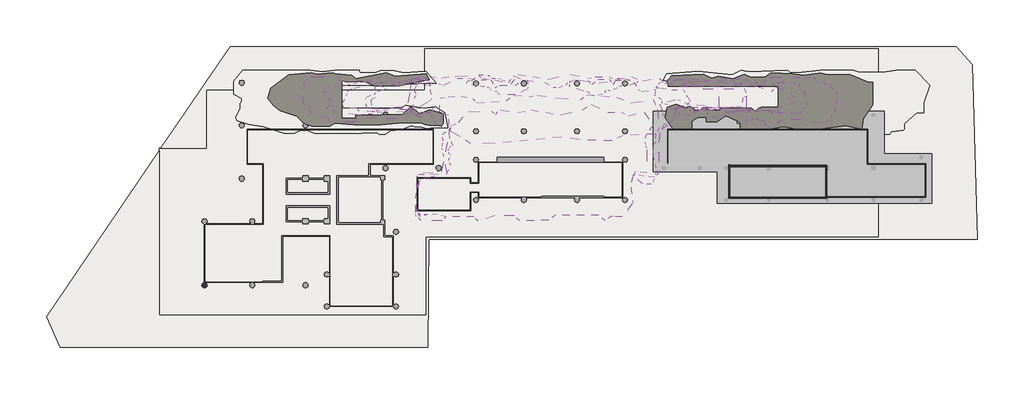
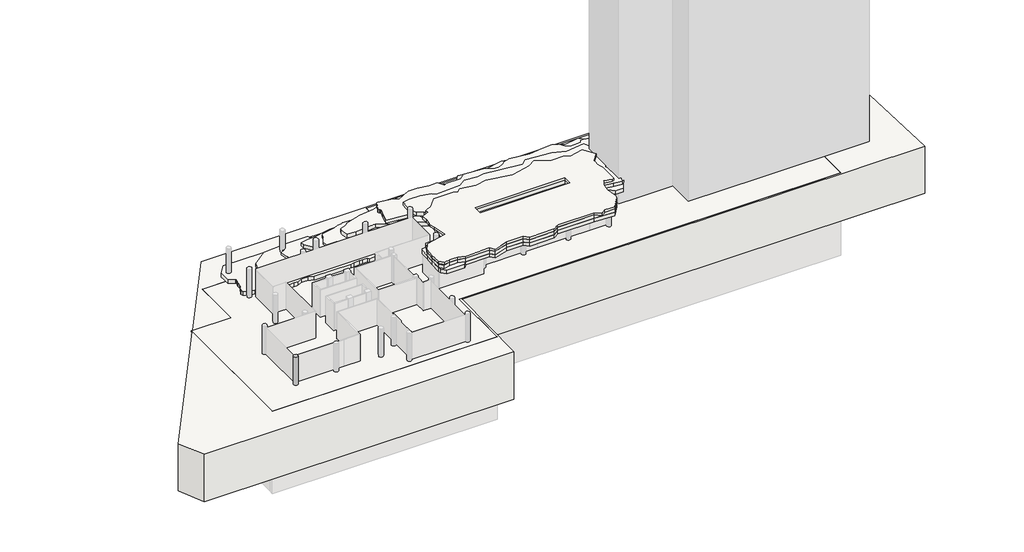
# One storey, part 2 of 3: 18 slabs, 13 walls, 1 column.
"""IFC4 building model written with IfcOpenShell, lengths in millimetres."""

from ifc_helpers import new_model, si_unit, point, frame, frame_2d, origin, origin_with_axes, place, context, project, spatial, polyline, circle_curve, trimmed, segment, composite_curve, outline, extrude, faceted_brep, element, save

model = new_model("IFC4")

# Units and contexts
model_context = context("Model", 3, world=origin())
ifc_project = project(units=[si_unit("LENGTHUNIT", "METRE", prefix="MILLI")], contexts=[model_context])

# Site, building, storey
site = spatial("IfcSite", under=ifc_project)
building = spatial("IfcBuilding", under=site)
storey = spatial("IfcBuildingStorey", under=building, Name="TW-L 01", Elevation=-3.14e-05)

# Column
placement = place(None, origin())
element("IfcColumn", 1, ObjectType="AJN-ARC-POTEAU CIRCULAIRE : ø90", at=placement, inside=storey, context=model_context, shape_type="SweptSolid", body=[
    extrude(outline(composite_curve([segment(trimmed(circle_curve(frame_2d((24400.0, 10500.0)), 450.0), [point((23950.0, 10500.0))], [point((24850.0, 10500.0))], False, "CARTESIAN"), True, "CONTINUOUS"), segment(trimmed(circle_curve(frame_2d((24400.0, 10500.0)), 450.0), [point((24850.0, 10500.0))], [point((23950.0, 10500.0))], False, "CARTESIAN"), True, "CONTINUOUS")], self_intersect=False)), frame((0.0, 0.0, -3.14e-05), z_axis=(0.0, 0.0, 1.0), x_axis=(1.0, 0.0, 0.0)), (0.0, 0.0, 1.0), 6000.0),
])

# Slabs
element("IfcSlab", 2, ObjectType="AJN-ARC-GROUND", at=placement, inside=storey, context=model_context, shape_type="SweptSolid", body=[
    extrude(outline(polyline([(-2288.897594, 5130.2877107), (16800.0, 33217.8905238), (16800.0, 5400.0), (61900.0, 5400.0), (61900.0, 18550.0), (138400.0, 18550.0), (138400.0, 50500.0), (61600.0, 50500.0), (61600.0, 43500.0), (24700.0, 43500.0), (24700.0, 33600.0), (17059.6892554, 33600.0), (28769.0749317, 50829.3120878), (151540.8062246, 50789.8483362), (154195.3580014, 47789.7295076), (155085.7762083, 18251.9851247), (62332.9956853, 18251.9851247), (62124.7981364, 0.0), (0.0, 0.0), (-2288.897594, 5130.2877107)])), frame((0.0, 0.0, -10000.0000314), z_axis=(0.0, 0.0, 1.0), x_axis=(1.0, 0.0, 0.0)), (0.0, 0.0, 1.0), 10000.0),
])
element("IfcSlab", 3, ObjectType="AJN-ARC-SLAB-40cm", at=placement, inside=storey, context=model_context, shape_type="SweptSolid", body=[
    extrude(outline(polyline([(61900.0, 5400.0), (16800.0, 5400.0), (16800.0, 33600.0), (24700.0, 33600.0), (24700.0, 43500.0), (61600.0, 43500.0), (61600.0, 50500.0), (138400.0, 50500.0), (138400.0, 18550.0), (61900.0, 18550.0), (61900.0, 5400.0)])), frame((0.0, 0.0, -400.0000314), z_axis=(0.0, 0.0, 1.0), x_axis=(1.0, 0.0, 0.0)), (0.0, 0.0, 1.0), 400.0),
])
element("IfcSlab", 4, ObjectType="AJN-ARC-SLAB-50cm", at=placement, inside=storey, context=model_context, shape_type="SweptSolid", body=[
    extrude(outline(polyline([(42602.5497879, 39366.8024335), (42400.5932575, 39547.7998518), (42309.8094549, 40500.0), (41255.1780912, 40974.2955048), (40730.7720106, 43762.5118626), (41278.5906885, 44100.0), (41278.5906885, 44956.7345984), (42437.4235598, 45697.955247), (46929.439021, 45697.955247), (47123.2339697, 45547.3871986), (47207.454389, 45217.2061857), (47358.5769443, 45071.2434935), (48690.8296955, 44780.2917432), (48746.3785446, 44776.1013252), (51340.7374454, 44943.4793188), (51370.6418227, 44943.1680634), (53572.4214876, 45417.1984529), (53658.8985799, 45428.9174333), (55178.4660913, 45991.5939881), (55391.3015303, 45584.615765), (59026.1718472, 45332.7312877), (59644.5273099, 45143.8795585), (59639.8469149, 45507.388627), (61650.0305697, 45710.8257697), (62072.2459784, 45369.4291804), (61871.9467641, 45169.4294042), (54660.3282401, 43967.4702962), (53261.1073264, 44473.9441186), (53183.7424746, 42164.2390509), (52983.7424746, 41964.2390509), (52697.7043541, 41964.2390509), (52499.0175634, 41741.3576348), (52701.0532939, 39987.0155648), (52899.5837731, 39809.8970419), (53508.6526724, 39900.1564337), (53708.8089839, 40100.1563726), (53708.8089839, 40152.1322717), (53908.4491988, 40352.1319481), (57664.5115169, 40358.8888364), (57800.5309989, 40412.5987473), (57790.8197681, 40214.5098523), (57892.9497336, 40265.2657296), (62782.1621124, 40575.7327336), (63016.0507739, 40390.6923372), (62989.3917972, 40003.8753464), (62886.4901351, 39816.8220557), (61188.021323, 38878.1885297), (60968.8923777, 38895.0582487), (59703.4832252, 39874.1747264), (59492.3681046, 39895.2394606), (56864.0497722, 38594.2430175), (50108.9642449, 38868.2103245), (50005.103857, 38774.4862693), (49955.4054131, 38123.931125), (49810.4708415, 38062.7102463), (46023.6073295, 38080.0811799), (45418.6752309, 38398.0427341), (45378.6631872, 38718.1390838), (45177.3482395, 38893.3116959), (42602.5497879, 39366.8024335)])), frame((0.0, 0.0, 1500.0), z_axis=(0.0, 0.0, 1.0), x_axis=(1.0, 0.0, 0.0)), (0.0, 0.0, 1.0), 500.0),
])
element("IfcSlab", 5, ObjectType="AJN-ARC-SLAB-50cm", at=placement, inside=storey, context=model_context, shape_type="SweptSolid", body=[
    extrude(outline(polyline([(48957.8511638, 43622.7714086), (49648.309328, 43799.1083299), (51661.1644671, 44218.8666348), (52505.6121498, 44484.9244215), (53367.4006994, 44623.5367972), (53539.6050945, 44757.8304246), (55971.280377, 44708.9948592), (56112.8114939, 44465.4618847), (57125.492357, 44995.7811807), (58215.1209532, 44607.4339256), (58922.9317797, 44899.3521029), (59989.6368845, 45300.8764792), (61697.5058988, 45456.5013876), (62096.9207083, 44697.9715292), (62481.7055237, 44697.9715292), (62481.7055237, 43498.3482813), (62594.8775282, 43475.7138804), (62753.3183345, 41993.1606212), (62515.657125, 41664.961808), (62279.3218543, 41415.341215), (59613.4041417, 40137.488781), (55059.3933002, 40126.8011453), (54279.0420005, 39871.1508839), (53197.5605506, 39779.1815394), (50543.1068389, 39931.4524598), (50063.7830674, 40429.3541855), (47932.6779434, 40444.2261757), (47783.1263912, 41393.0496489), (48416.860587, 42508.0445724), (48615.0764004, 43265.8682697), (48957.8511638, 43622.7714086)])), frame((0.0, 0.0, 2700.0), z_axis=(0.0, 0.0, 1.0), x_axis=(1.0, 0.0, 0.0)), (0.0, 0.0, 1.0), 500.0),
])
element("IfcSlab", 6, ObjectType="AJN-ARC-SLAB-50cm", at=placement, inside=storey, context=model_context, shape_type="SweptSolid", body=[
    extrude(outline(polyline([(92596.1151654, 39726.7571234), (94965.6826599, 39726.7571234), (96020.2342837, 39163.2452154), (98751.9325778, 39726.7571234), (100253.9503296, 37483.2622428), (99017.4974021, 35949.8235167), (98838.4677371, 34677.288185), (98968.3232008, 34028.5669446), (99220.5095007, 33362.6632909), (99220.5095007, 29577.8960852), (98808.365235, 29459.9623421), (97267.1896985, 29770.384984), (96709.6745694, 28705.398475), (96436.7961846, 27058.7100688), (96830.9536856, 24785.8103137), (96730.5064274, 24222.5428663), (95052.426039, 22054.8764561), (93056.0372532, 22053.0101588), (92198.0356178, 21386.8435581), (91035.9794852, 22273.0810943), (83713.7333486, 22273.0810943), (82595.848507, 21463.1398531), (77672.9809504, 21372.6912263), (76748.1342037, 22190.9981083), (73476.2713449, 22190.9981083), (70678.8286005, 21291.2358221), (69932.4386722, 22090.1404753), (65166.0211741, 22029.5504224), (63730.7095456, 22448.049303), (62168.77157, 22415.5124312), (60981.0516597, 22295.6617704), (60344.7678324, 22971.8395991), (60161.0236581, 25193.0920866), (60294.5296685, 26944.6420143), (61292.3067217, 28515.1700852), (65410.541409, 29522.1367537), (64867.5827185, 32298.4512383), (64616.7765948, 33355.0005126), (64622.5238088, 33975.2355275), (64750.8728564, 34935.2333722), (64623.6233429, 36036.6498871), (66017.9029851, 36777.1729581), (66000.740115, 37352.6050655), (66393.7192852, 37598.5190852), (67394.375159, 38001.8244681), (68984.6061478, 39833.8439134), (72932.7027454, 39901.2372942), (73623.5838014, 39420.4075575), (74419.5049582, 40150.0017435), (77496.8328542, 39696.0849424), (79626.8151905, 40113.328184), (84570.0131012, 39307.5362915), (88387.0956043, 40153.6037497), (89815.2617232, 41087.8673523), (92596.1151654, 39726.7571234)]), holes=[polyline([(73899.9990179, 32148.9987938), (91899.9990179, 32148.9877178), (91899.9990179, 33898.9884702), (73899.9990178, 33898.9995462), (73899.9990179, 32148.9987938)])]), frame((0.0, 0.0, 5400.0), z_axis=(0.0, 0.0, 1.0), x_axis=(1.0, 0.0, 0.0)), (0.0, 0.0, 1.0), 500.0),
])
element("IfcSlab", 7, ObjectType="AJN-ARC-SLAB-50cm", at=placement, inside=storey, context=model_context, shape_type="SweptSolid", body=[
    extrude(outline(polyline([(111355.1986538, 45046.5559401), (113820.6617098, 45365.0305195), (116106.7136424, 45260.4332908), (116837.1861067, 44722.9158171), (118865.7658225, 44811.2259054), (119962.4595845, 45645.1252476), (124040.658731, 45651.1739839), (126084.4288013, 45554.8760125), (127422.4538784, 45651.1739839), (127858.300991, 45087.9199682), (128830.432702, 44667.8614828), (130175.9619612, 44352.863398), (130175.9619612, 44100.0), (131210.6768191, 43272.672109), (131034.090263, 42124.5186152), (131214.455677, 41720.5066296), (131245.5813865, 40373.4532471), (130292.0383272, 39145.410107), (130262.227787, 38335.593342), (128904.8108351, 37858.0823445), (128261.158769, 37974.4875054), (125556.1271854, 37758.0849787), (125152.1663891, 38436.6350213), (122022.167304, 38394.6216108), (120080.6027997, 37081.754184), (119457.8050431, 37402.1482604), (118850.1548084, 38247.5746739), (118380.1003686, 38247.5746739), (118122.1231778, 38545.6808284), (117305.0654211, 38545.6808284), (116078.422981, 38132.2058485), (116078.422981, 39606.6177206), (115653.4378006, 39900.0), (112566.6023523, 39900.0), (112566.6023523, 39389.5405113), (110874.8659684, 38856.2343818), (109477.769744, 38963.6391871), (109437.2912341, 40288.822942), (108765.4629387, 40583.7093312), (108316.7733793, 40038.4586233), (107563.063449, 40055.4740546), (106553.3613937, 39210.0045908), (104790.6286964, 39268.8584286), (104147.7094603, 39863.1152917), (104062.2253134, 40351.7727866), (104042.6118115, 40597.9466032), (116122.2882615, 40597.9466032), (116122.2882615, 44097.9466032), (103763.7549549, 44097.9466032), (103759.3825013, 44152.826328), (103499.8877961, 44481.6628362), (103622.6988088, 45117.6901529), (106632.4194689, 45378.4364348), (111355.1986538, 45046.5559401)])), frame((0.0, 0.0, 1400.4146512), z_axis=(0.0, 0.0, 1.0), x_axis=(1.0, 0.0, 0.0)), (0.0, 0.0, 1.0), 500.0),
])
element("IfcSlab", 8, ObjectType="AJN-ARC-SLAB-50cm", at=placement, inside=storey, context=model_context, shape_type="SweptSolid", body=[
    extrude(outline(polyline([(104026.930795, 40524.4627945), (104026.930795, 40196.1953367), (102691.7008011, 40196.1953367), (102691.7008011, 40987.5360451), (101835.513402, 41215.1894726), (101722.3913175, 41861.8351541), (100616.1182834, 42482.2703213), (100743.890139, 43951.6466607), (101276.2728707, 44462.7340831), (101254.9775614, 44824.7543407), (102596.5820453, 44931.230887), (102642.3609414, 45292.6623854), (103887.0934796, 45062.8054738), (104225.7493182, 45364.9543441), (111194.042138, 44765.1752073), (111696.1935664, 45482.1658895), (113552.0987185, 45397.249824), (113834.3990591, 45146.3146242), (113931.9449093, 44554.026952), (116622.5878513, 44554.0269521), (117413.6836727, 44188.5855632), (120284.9813241, 43300.1287093), (121019.4452058, 43925.7687046), (123410.480903, 43068.4511622), (124320.2367018, 41391.4248265), (122007.2315538, 40625.7072143), (121448.9861138, 40179.4685983), (121427.2450152, 39809.8699224), (121322.3700891, 39715.8695916), (118325.2913859, 39867.3398786), (116560.7281433, 39741.299647), (116303.3683163, 40281.9729908), (110534.7890843, 40308.6534347), (110254.7900375, 40025.7072143), (107133.6234718, 40043.22404), (107129.4060637, 40412.8064101), (106453.6506239, 40709.4165455), (104813.8808757, 40453.4281692), (104026.930795, 40524.4627945)])), frame((0.0, 0.0, 2700.0), z_axis=(0.0, 0.0, 1.0), x_axis=(1.0, 0.0, 0.0)), (0.0, 0.0, 1.0), 500.0),
])
element("IfcSlab", 9, ObjectType="AJN-ARC-TERRACE-60cm", at=placement, inside=storey, context=model_context, shape_type="SweptSolid", body=[
    extrude(outline(polyline([(88538.1993343, 43301.5947471), (86155.4096049, 44032.7423712), (86240.9361969, 44712.4064286), (86172.539898, 44847.7042728), (86730.115496, 45196.5754414), (89252.970134, 45049.3268413), (89964.9011402, 44436.1522623), (90963.583118, 45300.2999399), (92877.174073, 45300.2999399), (93492.6807774, 44487.5677277), (94180.0100372, 45491.8321921), (95060.1768433, 45491.8321921), (97656.2572177, 44889.3696395), (97333.3395254, 44568.788305), (94938.0100386, 44005.6688931), (94852.2665952, 44192.5533685), (94049.3788223, 43825.5814038), (93996.6530534, 43687.9212943), (93032.8169974, 43362.5860631), (92250.7255677, 43336.9751216), (91681.5215932, 42751.2139148), (90242.6678575, 42420.7933072), (89438.6869491, 42836.2586163), (89521.1860186, 43023.5959619), (88538.1993343, 43301.5947471)])), frame((0.0, 0.0, 2600.0), z_axis=(0.0, 0.0, 1.0), x_axis=(1.0, 0.0, 0.0)), (0.0, 0.0, 1.0), 600.0),
])
element("IfcSlab", 10, ObjectType="AJN-ARC-TERRACE-60cm", at=placement, inside=storey, context=model_context, shape_type="SweptSolid", body=[
    extrude(outline(polyline([(76644.5268824, 45856.2320136), (79007.1819976, 45122.4764924), (79100.2548916, 43965.860922), (78947.9796802, 43644.7441245), (76972.642862, 42641.1844574), (74354.9110728, 42720.6275442), (74049.1314298, 42827.8323848), (73874.0361563, 43146.1034951), (72924.6598522, 43451.4431196), (72642.9988277, 43772.1209539), (71611.5698204, 44133.7348965), (71544.734425, 43972.5338404), (70570.1017806, 44233.0792008), (70384.4966468, 44112.6353354), (68750.1613719, 44604.3966751), (68917.767387, 45082.4581805), (69624.0825569, 45084.7087269), (70809.815549, 46081.0742141), (72283.3420327, 46081.0742141), (72947.372934, 45493.9931952), (74191.5979389, 45493.9931952), (74692.9339131, 45219.4930859), (75816.4767196, 44795.010335), (76644.5268824, 45856.2320136)])), frame((0.0, 0.0, 2600.0), z_axis=(0.0, 0.0, 1.0), x_axis=(1.0, 0.0, 0.0)), (0.0, 0.0, 1.0), 600.0),
])
element("IfcSlab", 11, ObjectType="AJN-ARC-TERRACE-60cm", at=placement, inside=storey, context=model_context, shape_type="SweptSolid", body=[
    extrude(outline(polyline([(52957.8968834, 44304.1851752), (51355.7013022, 44944.444729), (48718.3094557, 44774.2904163), (47625.7621824, 45012.8926943), (47625.7621824, 38723.939709), (50019.9350798, 38712.9572645), (49998.9283745, 39217.118191), (54326.6820044, 39259.5821032), (57814.356216, 39261.5916938), (59305.8322901, 40627.0275363), (60774.2269226, 39490.8500575), (62504.4409173, 40178.1014785), (64743.0719885, 39492.1287115), (64743.0719885, 37871.7907875), (64423.5613603, 37324.3706317), (63802.9985557, 37507.3172737), (62374.0629232, 37547.2346397), (61856.5571838, 37587.7970468), (60895.0109636, 37987.5319823), (58023.5941737, 37987.5319823), (54260.1265189, 37601.9285546), (49660.0029639, 37601.9285546), (46475.6408257, 37902.0165133), (45615.2863961, 37363.3261875), (42611.3275426, 37363.3261875), (41514.5602622, 37676.7424281), (41010.1177875, 37995.5105281), (40025.6620536, 39078.4960308), (37246.2087086, 39988.3476292), (36089.4987023, 40783.6743373), (35083.5765837, 42058.7556049), (35594.4308507, 43791.5432516), (37945.0605856, 45571.7168063), (38636.1106569, 46036.016073), (42448.3579097, 46408.6709321), (43467.7334471, 46131.576927), (45985.3700079, 46395.6037577), (46494.4271076, 46211.6010716), (49319.77814, 45989.1659398), (49973.5152107, 45396.5184687), (55154.8241016, 46422.7472935), (56660.6765194, 45811.9981174), (61888.0520031, 46202.8275732), (62389.5672732, 45200.7105225), (57312.5985077, 44198.4734367), (52936.9322922, 44202.2847193), (52957.8968834, 44304.1851752)])), frame((0.0, 0.0, 800.0), z_axis=(0.0, 0.0, 1.0), x_axis=(1.0, 0.0, 0.0)), (0.0, 0.0, 1.0), 600.0),
])
element("IfcSlab", 12, ObjectType="AJN-ARC-TERRACE-60cm", at=placement, inside=storey, context=model_context, shape_type="SweptSolid", body=[
    extrude(outline(polyline([(119131.7546888, 45644.7337073), (120206.4578018, 46425.1966713), (123741.7973775, 46264.0399583), (125653.2749167, 45954.1668914), (128249.108612, 46273.2594919), (128688.8319935, 46287.9169379), (129846.7702314, 46058.4384968), (133429.7014878, 46146.1271383), (136456.4569404, 44868.7305588), (137359.7452669, 44826.7171483), (137359.7452669, 40979.9690355), (135818.4882366, 38617.5193048), (135496.7290651, 36864.195566), (132833.3471716, 37416.6156871), (128278.4495074, 36849.7589796), (124624.2445764, 36849.6518541), (122237.9912169, 37275.3530385), (119885.6321364, 36849.3691513), (114980.8477697, 36849.3691513), (114980.8477697, 37751.5027456), (114748.4234997, 38114.7084377), (112549.9709338, 39129.0298033), (110899.4741008, 38040.0422021), (109230.3439053, 38081.1609604), (109216.561406, 38908.1109201), (107876.8584963, 38908.1109201), (106752.8120226, 38173.3541003), (106752.8120226, 36849.0368376), (103645.15192, 36849.0368376), (102300.470807, 38801.5873701), (102645.0332902, 40538.1822853), (104147.3257168, 41089.4822584), (105856.3556334, 40386.5747927), (106338.7431098, 40772.4847738), (107125.6931905, 40327.7209549), (107091.662328, 40055.4740546), (108316.7733793, 40038.4586233), (108765.4629387, 40583.7093312), (109939.4784061, 40068.397332), (111569.3121523, 40116.8608384), (111569.3121523, 40399.8143346), (116836.4535271, 40399.8143346), (117642.076646, 39900.0), (118116.0718111, 40399.8143346), (118495.1279053, 40399.8143346), (118495.011275, 40597.9466032), (121380.0956194, 40597.9466032), (121380.0956194, 44100.0), (102807.1944124, 44100.0), (102806.8122018, 44428.3197378), (102543.6534652, 44850.7272106), (103412.1310799, 45859.3482705), (108707.8350995, 46170.632378), (110131.5400396, 45470.878317), (111293.6827147, 45848.2428774), (113820.6617098, 45365.0305195), (115694.7122696, 46132.5297353), (116738.9896231, 45644.7337073), (119131.7546888, 45644.7337073)])), frame((0.0, 0.0, 800.0), z_axis=(0.0, 0.0, 1.0), x_axis=(1.0, 0.0, 0.0)), (0.0, 0.0, 1.0), 600.0),
])
element("IfcSlab", 13, ObjectType="AJN-ARC-TERRACE-70cm", at=placement, inside=storey, context=model_context, shape_type="SweptSolid", body=[
    extrude(outline(polyline([(91035.9794852, 22273.0810943), (83713.7333486, 22273.0810943), (82595.848507, 21463.1398531), (77672.9809504, 21372.6912263), (76748.1342037, 22190.9981083), (73476.2713449, 22190.9981083), (70678.8286005, 21291.2358221), (69932.4386722, 22090.1404753), (65166.0211741, 22029.5504224), (64640.9073819, 21403.4532086), (61036.3982218, 21403.4532086), (60236.3982218, 22147.8234628), (60085.0725673, 22849.337389), (60161.0236581, 25193.0920866), (60294.5296685, 26944.6420143), (60330.2512946, 28825.6246399), (60631.2453677, 29207.5412908), (62562.130412, 29353.5184814), (65357.7470061, 29205.5766186), (66031.9072657, 30789.2919956), (65736.7671814, 31632.9475702), (66006.929714, 32410.2520185), (65808.2766301, 32730.4448615), (65586.0632386, 33216.1567482), (65882.5417967, 33813.2522837), (66445.5793777, 34158.1973979), (65892.5644997, 35284.5489868), (65625.6869234, 37324.6299346), (65810.9392508, 37974.3085515), (65616.2219476, 39175.5860811), (59446.4825874, 39895.4425271), (59987.9023786, 42121.710444), (60211.8047941, 42855.6897859), (60159.1796875, 43048.7060547), (59979.6813149, 43179.6679745), (59868.3680458, 43455.3657881), (60709.2465607, 45177.3534572), (60927.7769025, 45288.4454313), (63382.5407888, 44818.1858303), (64037.6595783, 44532.9653765), (64763.8812, 44295.7373848), (67161.36972, 45441.0753514), (69014.9169413, 45500.2063622), (71193.7864484, 45177.3534572), (72846.0977144, 45177.3534572), (73580.1628198, 43884.3376921), (74222.3692402, 44295.7373848), (77011.349752, 44271.7998094), (78099.356439, 45177.3534572), (81955.2012487, 44769.3592825), (83377.6693103, 43931.5488712), (84427.6685826, 43931.5488712), (85540.0887074, 44405.034309), (86123.2381262, 44938.3320303), (87284.5661764, 45188.4590325), (91181.8544563, 44708.2962982), (93889.6564305, 45101.6004122), (95843.3592338, 45218.6968615), (96950.8021544, 44809.6344778), (97772.1359588, 43630.9946008), (98368.4084013, 43259.0242007), (100553.3977255, 43434.0947631), (100863.4857758, 43851.1097273), (101468.9328679, 43867.0397915), (103408.7660677, 43527.1255533), (105335.3674171, 43527.1255533), (105879.2210303, 42578.3347259), (106163.2698122, 42138.2766367), (106415.6558043, 41738.8953086), (106312.2060425, 41248.7524127), (105425.3990734, 40750.604939), (104587.1547956, 40654.6793222), (103773.501452, 39712.4917882), (103973.3873855, 39176.9464517), (103654.7542716, 38486.3770467), (102599.2386055, 37613.1796141), (102178.2791403, 37744.9499104), (101400.8185011, 36238.2952971), (101001.7573264, 33000.7766068), (101231.9969542, 32952.068182), (101264.4283989, 29741.4475997), (100449.0036837, 28447.5523989), (99924.7153275, 27577.9213858), (98491.779376, 27601.8884286), (96849.0629922, 29062.5786069), (96436.7961846, 27058.7100688), (96830.9536856, 24785.8103137), (96730.5064274, 24222.5428663), (95052.426039, 22054.8764561), (91035.9794852, 22273.0810943)]), holes=[polyline([(73899.9990179, 32148.9987938), (91899.9990179, 32148.9877178), (91899.9990179, 33898.9884702), (73899.9990178, 33898.9995462), (73899.9990179, 32148.9987938)])]), frame((0.0, 0.0, 4000.0), z_axis=(0.0, 0.0, 1.0), x_axis=(1.0, 0.0, 0.0)), (0.0, 0.0, 1.0), 700.0),
])
element("IfcSlab", 14, ObjectType="AJN-ARC-TERRACE-70cm", at=placement, inside=storey, context=model_context, shape_type="SweptSolid", body=[
    extrude(outline(polyline([(91035.9794852, 22273.0810943), (83713.7333486, 22273.0810943), (82595.848507, 21463.1398531), (77672.9809504, 21372.6912263), (76748.1342037, 22190.9981083), (73476.2713449, 22190.9981083), (70678.8286005, 21291.2358221), (69932.4386722, 22090.1404753), (65166.0211741, 22029.5504224), (63730.7095456, 22448.049303), (62168.77157, 22415.5124312), (60887.9808029, 22046.7619036), (60235.4515006, 22829.5114019), (60161.0236581, 25193.0920866), (60294.5296685, 26944.6420143), (61432.0712821, 29481.4406112), (64529.0301366, 29687.291592), (65854.3639559, 36324.0278433), (65876.0601101, 37724.5441536), (64656.4806445, 38382.7056394), (64150.6072416, 39694.3368526), (64247.4272903, 42114.4191452), (65607.0975557, 42382.2726895), (67838.0582308, 42444.2658952), (69748.48709, 42028.8490289), (70432.7031051, 41351.1806424), (75405.2640732, 41688.9285959), (76740.3581114, 42619.3374874), (79284.1877468, 42374.7157301), (80659.5764547, 42608.9967838), (83759.9067098, 42197.8456357), (87987.1293572, 41793.4812138), (89076.177731, 42703.7105176), (94090.0639223, 42275.1089802), (96526.9652375, 41318.0581934), (100298.3698108, 41808.2957266), (100911.4775033, 40219.7527262), (101281.209576, 37072.1674254), (100680.8490538, 35979.5359991), (100623.7119862, 34666.2486372), (100129.0174908, 33930.3809774), (100240.1004203, 33546.7156514), (100178.5310026, 33193.4093544), (100169.0510043, 32432.1930275), (100615.2120544, 30866.1343554), (100762.9603548, 29828.3556515), (100416.572239, 28717.7939746), (98687.6208314, 28907.9879259), (97146.445295, 29218.4105678), (96709.6745694, 28705.398475), (96436.7961846, 27058.7100688), (96830.9536856, 24785.8103137), (96730.5064274, 24222.5428663), (95052.426039, 22054.8764561), (91035.9794852, 22273.0810943)]), holes=[polyline([(73899.9990179, 32148.9987938), (91899.9990179, 32148.9877178), (91899.9990179, 33898.9884702), (73899.9990178, 33898.9995462), (73899.9990179, 32148.9987938)])]), frame((0.0, 0.0, 4700.0), z_axis=(0.0, 0.0, 1.0), x_axis=(1.0, 0.0, 0.0)), (0.0, 0.0, 1.0), 700.0),
])
element("IfcSlab", 15, ObjectType="AJN-ARC-TERRACE-80cm", at=placement, inside=storey, context=model_context, shape_type="SweptSolid", body=[
    extrude(outline(polyline([(46291.9044815, 44134.4443318), (47117.7300869, 44089.1534196), (48185.6343103, 44259.8630462), (49696.0229952, 44622.1938042), (50827.9678558, 44758.8045111), (51054.1554514, 44891.1588358), (54248.1203049, 44843.0284933), (54434.0190622, 44603.0123213), (55764.1584553, 45125.6734009), (57195.3674102, 44742.9341774), (58125.0651042, 45030.6368328), (59526.1644362, 45426.3628899), (61769.4218503, 45579.7404556), (62294.0465289, 44832.1643487), (62799.4549546, 44832.1643487), (62658.1761272, 44302.6701946), (62022.4845879, 44221.9024473), (61318.5058762, 44514.1270922), (59309.171156, 44455.6900092), (59102.6291488, 43013.7493736), (58476.0274277, 39696.4343963), (55429.5915724, 39988.2195676), (54387.8272862, 39637.4450314), (52787.5633925, 39391.2631092), (51415.3523236, 39325.0234287), (50812.5273479, 39247.9117446), (46758.0328886, 39677.8167504), (45083.2115391, 40359.0301569), (45915.6108165, 41457.9237006), (44768.7715288, 42938.2468844), (44728.0927504, 43762.8698404), (46291.9044815, 44134.4443318)])), frame((0.0, 0.0, 1900.0), z_axis=(0.0, 0.0, 1.0), x_axis=(1.0, 0.0, 0.0)), (0.0, 0.0, 1.0), 800.0),
])
element("IfcSlab", 16, ObjectType="AJN-ARC-TERRACE-80cm", at=placement, inside=storey, context=model_context, shape_type="SweptSolid", body=[
    extrude(outline(polyline([(29381.1947416, 42773.0168496), (29381.1947416, 44995.0230203), (30871.2250029, 46789.8483362), (42266.8913007, 46789.8483362), (43754.6987478, 46619.5165526), (44354.4954673, 46596.1478493), (46495.2541437, 46789.8483362), (50613.117986, 46789.8483362), (50647.264086, 46363.0220863), (53225.1248151, 46408.3661562), (54369.3444812, 46796.997007), (56529.942594, 46738.0376689), (58071.5197992, 46363.1107096), (61784.1239538, 46650.6274501), (63568.8365567, 44597.9466032), (57303.2900273, 44429.1725347), (57248.3972796, 44187.4774277), (52757.5737085, 44290.9667258), (52250.9703462, 44250.1258235), (47229.3818229, 44250.1258235), (47229.3818229, 40359.0301569), (57743.0696509, 40359.0301569), (58363.87705, 40937.7805419), (61489.7222278, 40392.0308399), (63402.9289522, 40670.3224843), (65046.074245, 39645.4384515), (65534.9322721, 37120.6186413), (63166.5569428, 37084.249344), (62096.379293, 36958.3949325), (60775.0490396, 37307.4255655), (59926.7644325, 37231.4212908), (59466.2217343, 37408.5530978), (59324.7886125, 37409.3690309), (57686.2851749, 36800.7820398), (57612.347788, 36788.3133263), (55809.8439198, 36583.6354292), (54955.9940469, 36013.2482413), (53966.5362274, 35972.6973272), (53648.3228528, 36286.8728209), (52716.3470654, 36286.9880447), (52083.7508264, 36289.2387378), (51012.744113, 36176.9050444), (50353.2499453, 36121.5437423), (42937.9468241, 36159.0199576), (41967.0416229, 36629.5039758), (40677.9903544, 36671.5868503), (39596.4608496, 36190.2410105), (38978.747037, 36190.2410105), (37846.4608496, 36210.7675591), (36297.2423528, 36666.0926576), (34453.2511621, 37273.1597987), (31846.3597882, 37680.1620575), (29937.2384855, 38258.0499573), (29729.1464487, 38856.0841641), (30461.0834582, 40432.8334481), (30451.4772546, 41158.9513612), (30493.4427239, 41284.1964577), (30702.248019, 41553.3232825), (30738.7096391, 41722.5923323), (30681.30039, 41961.8244307), (30585.5839004, 42089.0686753), (29381.1947416, 42773.0168496)])), origin_with_axes(), (0.0, 0.0, 1.0), 800.0),
])
element("IfcSlab", 17, ObjectType="AJN-ARC-TERRACE-80cm", at=placement, inside=storey, context=model_context, shape_type="SweptSolid", body=[
    extrude(outline(polyline([(107888.1496066, 40247.5669829), (107888.1496066, 39919.2995251), (106552.9196127, 39919.2995251), (106552.9196127, 40597.9466032), (111467.6140914, 40597.9466032), (111467.6140914, 44097.9466032), (105045.9378612, 44097.9466032), (105137.4916823, 44185.8382715), (105116.1963731, 44547.858529), (106457.8008569, 44654.3350754), (106503.579753, 45015.7665738), (107748.3122912, 44785.9096621), (108086.9681298, 45088.0585324), (115055.2609497, 44488.2793957), (115557.412378, 45205.2700778), (117413.3175301, 45120.3540124), (117695.6178707, 44869.4188126), (117793.163721, 44277.1311404), (120483.8066629, 44277.1311404), (121194.0328647, 44813.7079434), (123678.4801266, 44827.9749628), (124880.6640175, 44457.239563), (124880.6640175, 43648.8728929), (125583.4967598, 43357.4544388), (126493.2525586, 41680.4281031), (125868.4503654, 40348.8114026), (125310.2049255, 39902.5727866), (125288.4638269, 39532.9741108), (125183.5889007, 39438.9737799), (122186.5101976, 39590.4440669), (120421.9469549, 39464.4038353), (120164.587128, 40005.0771791), (114396.007896, 40031.757623), (114116.0088491, 39748.8114026), (110994.8422835, 39766.3282284), (110990.6248753, 40135.9105985), (110314.8694355, 40432.5207338), (108675.0996873, 40176.5323575), (107888.1496066, 40247.5669829)])), frame((0.0, 0.0, 1900.0), z_axis=(0.0, 0.0, 1.0), x_axis=(1.0, 0.0, 0.0)), (0.0, 0.0, 1.0), 800.0),
])
element("IfcSlab", 18, ObjectType="AJN-ARC-TERRACE-80cm", at=placement, inside=storey, context=model_context, shape_type="SweptSolid", body=[
    extrude(outline(polyline([(128478.0345146, 46789.8483362), (134112.845158, 46789.8483362), (135084.028099, 46452.4780013), (139093.3935963, 46504.2277619), (141323.4697506, 46789.8483362), (144573.8297793, 46789.8483362), (146991.6147228, 44307.2601871), (146042.37056, 41317.6606851), (146042.37056, 39621.6294262), (144790.1761326, 39621.6294262), (142689.7209639, 37743.337785), (142672.8359902, 36882.2041261), (142502.452117, 36688.3241317), (140508.479058, 36390.1599359), (140225.7254776, 35964.9019316), (137622.9715229, 36042.2159996), (136449.0365891, 36956.7607098), (132662.2397973, 37082.9855519), (130231.7802731, 36921.5150158), (128831.5216895, 36919.4778726), (126813.4881996, 36847.9121426), (124526.4414765, 37021.7632794), (121949.0619767, 37265.3643335), (120357.0183527, 37050.8581738), (119238.8160826, 37255.019821), (118275.8356869, 37074.7194895), (117958.4123897, 37243.411594), (117201.0247867, 37217.6860501), (115070.2610975, 36968.3184496), (114752.1021994, 37579.5766118), (111215.5220401, 37875.4113822), (110476.731576, 36982.706238), (109643.019542, 36971.284391), (109090.6006821, 37004.5225056), (103355.9709875, 37072.2041173), (102362.836667, 37018.4107013), (101413.452209, 38159.8303218), (101101.8075804, 39236.8802634), (101732.3598267, 39986.8188325), (103800.6624602, 39592.6061326), (104570.2358604, 39561.8231966), (106571.4611313, 39942.0953525), (109089.0760906, 39952.252381), (109994.0619269, 39961.0211437), (112825.0, 39750.0), (116367.4846364, 39629.5816616), (117841.0508607, 39512.0995846), (118872.5404581, 39615.5924327), (120637.1037007, 39741.6326643), (122550.0, 39900.0), (123760.7984287, 40053.761384), (124319.0438686, 40500.0), (125378.4366882, 40597.9466032), (129144.5765231, 40597.9466032), (129144.5765231, 44097.9466032), (122136.0892657, 44097.9466032), (120130.0, 44597.9466032), (120004.2427771, 44696.644816), (119644.6263679, 44964.8965408), (103100.0, 44597.9466032), (103100.0, 44897.9466032), (101931.0984923, 45111.7531997), (102549.0933879, 46210.3470708), (107764.4548576, 46661.2842119), (113600.9859886, 46055.5552557), (115193.9770181, 46789.8483362), (116510.9119002, 46575.8349569), (123052.9144575, 46789.8483362), (123368.5223894, 46507.9142152), (124608.8914443, 46436.8068954), (128478.0345146, 46789.8483362)])), origin_with_axes(), (0.0, 0.0, 1.0), 800.0),
])
element("IfcSlab", 19, ObjectType="AJN-ARC-TERRACE-80cm", at=placement, inside=storey, context=model_context, shape_type="SweptSolid", body=[
    extrude(outline(polyline([(90450.8346353, 45741.6632742), (92820.4021298, 45741.6632742), (93874.9537535, 45178.1513662), (96606.6520477, 45741.6632742), (98500.9959185, 45040.950097), (101281.209576, 45481.6140837), (102250.6162897, 44619.6557876), (105095.1241308, 44227.0382318), (106158.6153547, 45008.0921813), (108679.0457812, 43690.6547573), (115671.982065, 43665.5580015), (116085.1944478, 42388.0956268), (115436.3333792, 42159.3828127), (115253.2124481, 40587.5485536), (113767.8028487, 40638.7015859), (111569.3121523, 40399.8143346), (109437.2912341, 40631.2450085), (109437.8844207, 40579.2625357), (108913.7177275, 40781.8110527), (106404.4897048, 40997.3374757), (104803.7770325, 41705.3450038), (104034.2036323, 41736.1279399), (101281.209576, 41072.1674254), (102631.091353, 38457.9534877), (102660.9915564, 37454.8342624), (100584.4636389, 36038.0945593), (95121.9091684, 35785.2911348), (93316.6159279, 34889.7115409), (87819.9243817, 35072.9345924), (84705.1325055, 35500.455046), (73497.2038154, 34450.9699949), (69450.0447969, 34370.8282321), (67646.8551352, 35613.0255547), (63633.7790566, 37780.8496719), (62936.0453549, 38821.9968801), (62676.5257608, 39772.1904203), (60462.6314828, 39042.6074042), (57849.5461972, 40670.174672), (53708.8089839, 40173.1252115), (51892.2923764, 40398.2508092), (51669.7130258, 41902.8730245), (51825.3182501, 42315.6292841), (53133.5283661, 42800.7268545), (53577.3681386, 43249.3626685), (56744.8581653, 44206.9721447), (59772.7391089, 44695.7492163), (62461.3415009, 45707.6128425), (64535.6455642, 45572.7574676), (66839.3256177, 45848.7500642), (70787.4222153, 45916.143445), (71478.3032713, 45435.3137082), (73493.718513, 45248.2666204), (76255.5909289, 44553.2747815), (77481.5346603, 46128.2343348), (82424.7325711, 45322.4424423), (86241.8150742, 46168.5099005), (89225.6678881, 45442.2772867), (90450.8346353, 45741.6632742)])), frame((0.0, 0.0, 3200.0), z_axis=(0.0, 0.0, 1.0), x_axis=(1.0, 0.0, 0.0)), (0.0, 0.0, 1.0), 800.0),
])

# Walls
element("IfcWall", 20, ObjectType="AJN-ARC-CONCRETE WALL-100cm", at=placement, inside=storey, context=model_context, shape_type="Brep", body=[
    faceted_brep([(138400.0, 19550.0, -17450.0000314), (138400.0, 50500.0, -17450.0000314), (138400.0, 50500.0, -400.0000314), (138400.0, 19550.0, -400.0000314), (137400.0, 19550.0, -17450.0000314), (137400.0, 19550.0, -400.0000314), (137400.0, 49500.0, -400.0000314), (137400.0, 50500.0, -400.0000314), (137400.0, 50500.0, -17450.0000314), (137400.0, 49500.0, -17450.0000314)], [[[0, 1, 2, 3]], [[4, 5, 6, 7, 8, 9]], [[1, 0, 4, 9, 8]], [[0, 3, 5, 4]], [[2, 1, 8, 7]], [[3, 2, 7, 6, 5]]]),
])
element("IfcWall", 21, ObjectType="AJN-ARC-CONCRETE WALL-100cm", at=placement, inside=storey, context=model_context, shape_type="Brep", body=[
    faceted_brep([(137400.0, 50500.0, -17450.0000314), (61600.0, 50500.0, -17450.0000314), (61600.0, 50500.0, -400.0000314), (137400.0, 50500.0, -400.0000314), (137400.0, 49500.0, -17450.0000314), (137400.0, 49500.0, -400.0000314), (62600.0, 49500.0, -400.0000314), (61600.0, 49500.0, -400.0000314), (61600.0, 49500.0, -17450.0000314), (62600.0, 49500.0, -17450.0000314)], [[[0, 1, 2, 3]], [[4, 5, 6, 7, 8, 9]], [[1, 0, 4, 9, 8]], [[0, 3, 5, 4]], [[2, 1, 8, 7]], [[3, 2, 7, 6, 5]]]),
])
element("IfcWall", 22, ObjectType="AJN-ARC-CONCRETE WALL-20cm", at=placement, inside=storey, context=model_context, shape_type="Brep", body=[
    faceted_brep([(113050.0, 30750.0, -3.14e-05), (113050.0, 25150.0, -3.14e-05), (113050.0, 25150.0, 5699.9999686), (113050.0, 30750.0, 5699.9999686), (113250.0, 30750.0, -3.14e-05), (113250.0, 30750.0, 5699.9999686), (113250.0, 30550.0, 5699.9999686), (113250.0, 25350.0, 5699.9999686), (113250.0, 25150.0, 5699.9999686), (113250.0, 25150.0, -3.14e-05), (113250.0, 25350.0, -3.14e-05), (113250.0, 30550.0, -3.14e-05)], [[[0, 1, 2, 3]], [[4, 5, 6, 7, 8, 9, 10, 11]], [[1, 0, 4, 11, 10, 9]], [[2, 1, 9, 8]], [[0, 3, 5, 4]], [[3, 2, 8, 7, 6, 5]]]),
])
element("IfcWall", 23, ObjectType="AJN-ARC-CONCRETE WALL-20cm", at=placement, inside=storey, context=model_context, shape_type="Brep", body=[
    faceted_brep([(113250.0, 25150.0, -3.14e-05), (119425.8342613, 25150.0, -3.14e-05), (120174.1657387, 25150.0, -3.14e-05), (129325.8342613, 25150.0, -3.14e-05), (129600.0, 25150.0, -3.14e-05), (129600.0, 25150.0, 5699.9999686), (129325.8342613, 25150.0, 5699.9999686), (120174.1657387, 25150.0, 5699.9999686), (119425.8342613, 25150.0, 5699.9999686), (113250.0, 25150.0, 5699.9999686), (113250.0, 25350.0, -3.14e-05), (113250.0, 25350.0, 5699.9999686), (129400.0, 25350.0, 5699.9999686), (129600.0, 25350.0, 5699.9999686), (129600.0, 25350.0, -3.14e-05), (129400.0, 25350.0, -3.14e-05), (129600.0, 25338.7482194, -3.14e-05), (129600.0, 25338.7482194, 5699.9999686)], [[[0, 1, 2, 3, 4, 5, 6, 7, 8, 9]], [[10, 11, 12, 13, 14, 15]], [[4, 3, 2, 1, 0, 10, 15, 14, 16]], [[5, 4, 16, 14, 13, 17]], [[0, 9, 11, 10]], [[9, 8, 7, 6, 5, 17, 13, 12, 11]]]),
])
element("IfcWall", 24, ObjectType="AJN-ARC-CONCRETE WALL-20cm", at=placement, inside=storey, context=model_context, shape_type="Brep", body=[
    faceted_brep([(129600.0, 25350.0, -3.14e-05), (129600.0, 25400.0, -3.14e-05), (129600.0, 29850.0, -3.14e-05), (129600.0, 30750.0, -3.14e-05), (129600.0, 30750.0, 5699.9999686), (129600.0, 29850.0, 5699.9999686), (129600.0, 25400.0, 5699.9999686), (129600.0, 25350.0, 5699.9999686), (129400.0, 25350.0, -3.14e-05), (129400.0, 25350.0, 5699.9999686), (129400.0, 29850.0, 5699.9999686), (129400.0, 30550.0, 5699.9999686), (129400.0, 30750.0, 5699.9999686), (129400.0, 30750.0, -3.14e-05), (129400.0, 30550.0, -3.14e-05), (129400.0, 29850.0, -3.14e-05)], [[[0, 1, 2, 3, 4, 5, 6, 7]], [[8, 9, 10, 11, 12, 13, 14, 15]], [[3, 2, 1, 0, 8, 15, 14, 13]], [[4, 3, 13, 12]], [[0, 7, 9, 8]], [[7, 6, 5, 4, 12, 11, 10, 9]]]),
])
element("IfcWall", 25, ObjectType="AJN-ARC-CONCRETE WALL-20cm", at=placement, inside=storey, context=model_context, shape_type="Brep", body=[
    faceted_brep([(129400.0, 30750.0, -3.14e-05), (113250.0, 30750.0, -3.14e-05), (113250.0, 30750.0, 5699.9999686), (119350.0, 30750.0, 5699.9999686), (120250.0, 30750.0, 5699.9999686), (129250.0, 30750.0, 5699.9999686), (129400.0, 30750.0, 5699.9999686), (129400.0, 30550.0, -3.14e-05), (129400.0, 30550.0, 5699.9999686), (129250.0, 30550.0, 5699.9999686), (120250.0, 30550.0, 5699.9999686), (119350.0, 30550.0, 5699.9999686), (113250.0, 30550.0, 5699.9999686), (113250.0, 30550.0, -3.14e-05), (119350.0, 30550.0, -3.14e-05), (120250.0, 30550.0, -3.14e-05), (129250.0, 30550.0, -3.14e-05)], [[[0, 1, 2, 3, 4, 5, 6]], [[7, 8, 9, 10, 11, 12, 13, 14, 15, 16]], [[1, 0, 7, 16, 15, 14, 13]], [[2, 1, 13, 12]], [[0, 6, 8, 7]], [[6, 5, 4, 3, 2, 12, 11, 10, 9, 8]]]),
])
element("IfcWall", 26, ObjectType="AJN-ARC-CONCRETE WALL-20cm", at=placement, inside=storey, context=model_context, shape_type="SweptSolid", body=[
    extrude(outline(polyline([(113050.0, 30750.0), (113050.0, 30950.0007569), (113250.0, 30950.0007569), (113250.0, 30750.0), (113050.0, 30750.0)])), frame((0.0, 0.0, -3.14e-05), z_axis=(0.0, 0.0, 1.0), x_axis=(1.0, 0.0, 0.0)), (0.0, 0.0, 1.0), 3000.0),
])
element("IfcWall", 27, ObjectType="AJN-ARC-GLASS-50mm", at=placement, inside=storey, context=model_context, shape_type="Brep", body=[
    faceted_brep([(129600.0, 25350.0, -3.14e-05), (146350.0, 25350.0, -3.14e-05), (146350.0, 25350.0, 5999.9999686), (146049.9999996, 25350.0, 5999.9999686), (146049.9999996, 25350.0, 5699.9999686), (137349.999978, 25350.0, 5699.9999686), (129600.0, 25350.0, 5699.9999686), (129600.0, 25400.0, -3.14e-05), (129600.0, 25400.0, 5699.9999686), (146049.9999996, 25400.0, 5699.9999686), (146049.9999996, 25400.0, 5999.9999686), (146300.0, 25400.0, 5999.9999686), (146350.0, 25400.0, 5999.9999686), (146350.0, 25400.0, -3.14e-05), (146300.0, 25400.0, -3.14e-05)], [[[0, 1, 2, 3, 4, 5, 6]], [[7, 8, 9, 10, 11, 12, 13, 14]], [[1, 0, 7, 14, 13]], [[2, 1, 13, 12]], [[3, 2, 12, 11, 10]], [[3, 10, 9, 4]], [[6, 5, 4, 9, 8]], [[0, 6, 8, 7]]]),
])
element("IfcWall", 28, ObjectType="AJN-ARC-GLASS-50mm", at=placement, inside=storey, context=model_context, shape_type="Brep", body=[
    faceted_brep([(146350.0, 25400.0, -3.14e-05), (146350.0, 31000.0, -3.14e-05), (146350.0, 31000.0, 5999.9999686), (146350.0, 25400.0, 5999.9999686), (146300.0, 25400.0, -3.14e-05), (146300.0, 25400.0, 5999.9999686), (146300.0, 30950.0, 5999.9999686), (146300.0, 31000.0, 5999.9999686), (146300.0, 31000.0, -3.14e-05), (146300.0, 30950.0, -3.14e-05)], [[[0, 1, 2, 3]], [[4, 5, 6, 7, 8, 9]], [[1, 0, 4, 9, 8]], [[3, 2, 7, 6, 5]], [[2, 1, 8, 7]], [[0, 3, 5, 4]]]),
])
element("IfcWall", 29, ObjectType="AJN-ARC-GLASS-50mm", at=placement, inside=storey, context=model_context, shape_type="Brep", body=[
    faceted_brep([(146300.0, 31000.0, -3.14e-05), (136500.0, 31000.0, -3.14e-05), (136500.0, 31000.0, 5699.9999686), (137349.9999927, 31000.0, 5699.9999686), (146049.9999996, 31000.0, 5699.9999686), (146049.9999996, 31000.0, 5999.9999686), (146300.0, 31000.0, 5999.9999686), (146300.0, 30950.0, -3.14e-05), (146300.0, 30950.0, 5999.9999686), (146049.9999996, 30950.0, 5999.9999686), (146049.9999996, 30950.0, 5699.9999686), (136500.0, 30950.0, 5699.9999686), (136500.0, 30950.0, -3.14e-05)], [[[0, 1, 2, 3, 4, 5, 6]], [[7, 8, 9, 10, 11, 12]], [[1, 0, 7, 12]], [[0, 6, 8, 7]], [[6, 5, 9, 8]], [[9, 5, 4, 10]], [[4, 3, 2, 11, 10]], [[2, 1, 12, 11]]]),
])
element("IfcWall", 30, ObjectType="AJN-ARC-GLASS-50mm", at=placement, inside=storey, context=model_context, shape_type="Brep", body=[
    faceted_brep([(136500.0, 30950.0, -3.14e-05), (136500.0, 31000.0, -3.14e-05), (136500.0, 36850.0, -3.14e-05), (136500.0, 36850.0, 5699.9999686), (136500.0, 31000.0, 5699.9999686), (136500.0, 30950.0, 5699.9999686), (136450.0, 30950.0, -3.14e-05), (136450.0, 30950.0, 5699.9999686), (136450.0, 36799.9985342, 5699.9999686), (136450.0, 36849.9985342, 5699.9999686), (136450.0, 36849.9985342, -3.14e-05), (136450.0, 36799.9985342, -3.14e-05)], [[[0, 1, 2, 3, 4, 5]], [[6, 7, 8, 9, 10, 11]], [[2, 1, 0, 6, 11, 10]], [[3, 2, 10, 9]], [[5, 4, 3, 9, 8, 7]], [[0, 5, 7, 6]]]),
])
element("IfcWall", 31, ObjectType="AJN-ARC-GLASS-50mm", at=placement, inside=storey, context=model_context, shape_type="Brep", body=[
    faceted_brep([(136450.0, 36849.9985342, -3.14e-05), (102699.9775564, 36849.0091291, -3.14e-05), (102699.9775564, 36849.0091291, 5699.9999686), (136450.0, 36849.9985342, 5699.9999686), (136450.0, 36799.9985342, -3.14e-05), (136450.0, 36799.9985342, 5699.9999686), (102749.9777467, 36799.0105949, 5699.9999686), (102699.9971669, 36799.0091297, 5699.9999686), (102699.9777467, 36799.0091291, -3.14e-05), (102749.9777467, 36799.0105949, -3.14e-05)], [[[0, 1, 2, 3]], [[4, 5, 6, 7, 8, 9]], [[1, 0, 4, 9, 8]], [[2, 1, 8, 7]], [[0, 3, 5, 4]], [[3, 2, 7, 6, 5]]]),
])
element("IfcWall", 32, ObjectType="AJN-ARC-GLASS-50mm", at=placement, inside=storey, context=model_context, shape_type="Brep", body=[
    faceted_brep([(102699.9777467, 36799.0091291, -3.14e-05), (102700.0, 30950.0007569, -3.14e-05), (102700.0, 30950.0007569, 5699.9999686), (102699.9887764, 33899.9891288, 5699.9999686), (102699.981928, 35700.001184, 5699.9999686), (102699.9777467, 36799.0091291, 5699.9999686), (102749.9777467, 36799.0105949, -3.14e-05), (102749.9777467, 36799.0105949, 5699.9999686), (102749.9998098, 31000.0007569, 5699.9999686), (102750.0, 30950.0113834, 5699.9999686), (102750.0, 30950.0007569, -3.14e-05), (102749.9998098, 31000.0007569, -3.14e-05)], [[[0, 1, 2, 3, 4, 5]], [[6, 7, 8, 9, 10, 11]], [[1, 0, 6, 11, 10]], [[2, 1, 10, 9]], [[0, 5, 7, 6]], [[5, 4, 3, 2, 9, 8, 7]]]),
])

save(model, "model.ifc")
